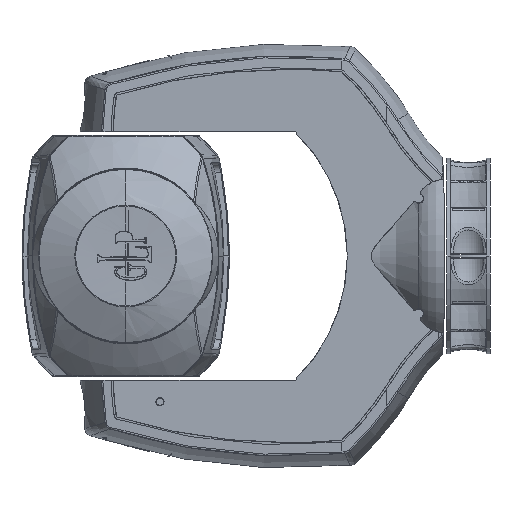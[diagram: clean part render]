
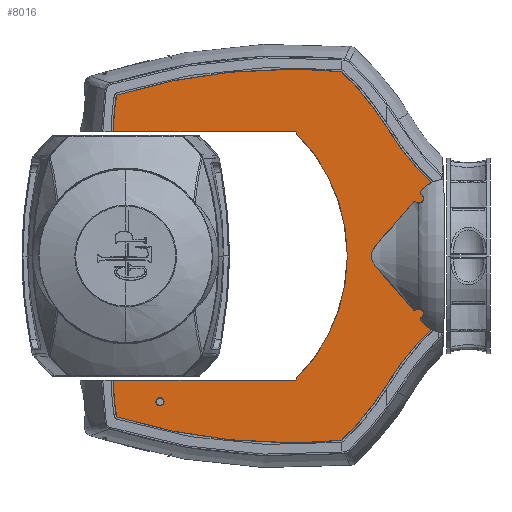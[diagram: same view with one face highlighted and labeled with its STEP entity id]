
A CAD part, left-side view. The second image highlights one B-rep face of the part: STEP entity #8016.
In plain terms, the highlighted planar face has unit normal (-1, 0, 0).
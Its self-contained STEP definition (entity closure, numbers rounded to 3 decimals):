
#7822=DIRECTION('',(0.,-1.,0.));
#7823=VECTOR('',#7822,200.9);
#7824=CARTESIAN_POINT('',(-67.,373.028,137.5));
#7825=LINE('',#7824,#7823);
#7826=CARTESIAN_POINT('',(-67.,180.522,143.5));
#7827=DIRECTION('',(1.,0.,0.));
#7828=DIRECTION('',(0.,1.,-0.031));
#7829=AXIS2_PLACEMENT_3D('',#7826,#7827,#7828);
#7831=CARTESIAN_POINT('',(-67.,180.522,-434.1));
#7832=DIRECTION('',(1.,0.,0.));
#7833=DIRECTION('',(0.,0.296,0.955));
#7834=AXIS2_PLACEMENT_3D('',#7831,#7832,#7833);
#7836=CARTESIAN_POINT('',(-67.,180.522,-434.1));
#7837=DIRECTION('',(1.,0.,0.));
#7838=DIRECTION('',(0.,0.,1.));
#7839=AXIS2_PLACEMENT_3D('',#7836,#7837,#7838);
#7841=CARTESIAN_POINT('',(-67.,325.,-12.5));
#7842=DIRECTION('',(1.,0.,0.));
#7843=DIRECTION('',(0.,-0.687,0.727));
#7844=AXIS2_PLACEMENT_3D('',#7841,#7842,#7843);
#7846=CARTESIAN_POINT('',(-67.,-209.512,315.067));
#7847=DIRECTION('',(-1.,0.,0.));
#7848=DIRECTION('',(0.,0.853,-0.523));
#7849=AXIS2_PLACEMENT_3D('',#7846,#7847,#7848);
#7851=DIRECTION('',(0.,0.,-1.));
#7852=VECTOR('',#7851,146.1);
#7853=CARTESIAN_POINT('',(-67.,13.5,73.05));
#7854=LINE('',#7853,#7852);
#7855=CARTESIAN_POINT('',(-67.,-209.512,-315.067));
#7856=DIRECTION('',(-1.,0.,0.));
#7857=DIRECTION('',(0.,0.678,0.735));
#7858=AXIS2_PLACEMENT_3D('',#7855,#7856,#7857);
#7860=CARTESIAN_POINT('',(-67.,325.,12.5));
#7861=DIRECTION('',(1.,0.,0.));
#7862=DIRECTION('',(0.,-0.853,-0.523));
#7863=AXIS2_PLACEMENT_3D('',#7860,#7861,#7862);
#7865=CARTESIAN_POINT('',(-67.,180.522,434.1));
#7866=DIRECTION('',(1.,0.,0.));
#7867=DIRECTION('',(0.,-0.094,-0.996));
#7868=AXIS2_PLACEMENT_3D('',#7865,#7866,#7867);
#7870=CARTESIAN_POINT('',(-67.,180.522,434.1));
#7871=DIRECTION('',(1.,0.,0.));
#7872=DIRECTION('',(0.,0.,-1.));
#7873=AXIS2_PLACEMENT_3D('',#7870,#7871,#7872);
#7875=CARTESIAN_POINT('',(-67.,180.522,-143.5));
#7876=DIRECTION('',(1.,0.,0.));
#7877=DIRECTION('',(0.,0.984,-0.18));
#7878=AXIS2_PLACEMENT_3D('',#7875,#7876,#7877);
#7880=CARTESIAN_POINT('',(-67.,306.85,0.));
#7881=DIRECTION('',(-1.,0.,0.));
#7882=DIRECTION('',(0.,-0.7,-0.714));
#7883=AXIS2_PLACEMENT_3D('',#7880,#7881,#7882);
#7885=CARTESIAN_POINT('',(-67.,306.85,0.));
#7886=DIRECTION('',(-1.,0.,0.));
#7887=DIRECTION('',(0.,-1.,0.));
#7888=AXIS2_PLACEMENT_3D('',#7885,#7886,#7887);
#7894=DIRECTION('',(0.,1.,0.));
#7895=VECTOR('',#7894,200.9);
#7896=CARTESIAN_POINT('',(-67.,172.128,-137.5));
#7897=LINE('',#7896,#7895);
#7934=CARTESIAN_POINT('',(-67.,373.028,137.5));
#7935=VERTEX_POINT('',#7934);
#7936=CARTESIAN_POINT('',(-67.,172.128,137.5));
#7937=VERTEX_POINT('',#7936);
#7938=CARTESIAN_POINT('',(-67.,369.978,178.157));
#7939=VERTEX_POINT('',#7938);
#7940=CARTESIAN_POINT('',(-67.,180.522,206.8));
#7941=VERTEX_POINT('',#7940);
#7942=CARTESIAN_POINT('',(-67.,120.501,203.983));
#7943=VERTEX_POINT('',#7942);
#7944=CARTESIAN_POINT('',(-67.,71.088,143.106));
#7945=VERTEX_POINT('',#7944);
#7946=CARTESIAN_POINT('',(-67.,13.5,73.05));
#7947=VERTEX_POINT('',#7946);
#7948=CARTESIAN_POINT('',(-67.,13.5,-73.05));
#7949=VERTEX_POINT('',#7948);
#7950=CARTESIAN_POINT('',(-67.,71.088,-143.106));
#7951=VERTEX_POINT('',#7950);
#7952=CARTESIAN_POINT('',(-67.,120.501,-203.983));
#7953=VERTEX_POINT('',#7952);
#7954=CARTESIAN_POINT('',(-67.,180.522,-206.8));
#7955=VERTEX_POINT('',#7954);
#7956=CARTESIAN_POINT('',(-67.,369.978,-178.157));
#7957=VERTEX_POINT('',#7956);
#7958=CARTESIAN_POINT('',(-67.,373.028,-137.5));
#7959=VERTEX_POINT('',#7958);
#7960=CARTESIAN_POINT('',(-67.,172.128,-137.5));
#7961=VERTEX_POINT('',#7960);
#7962=CARTESIAN_POINT('',(-67.,114.35,0.));
#7963=VERTEX_POINT('',#7962);
#7980=CARTESIAN_POINT('',(-67.,325.,0.));
#7981=DIRECTION('',(1.,0.,0.));
#7982=DIRECTION('',(0.,0.,1.));
#7983=AXIS2_PLACEMENT_3D('',#7980,#7981,#7982);
#7984=PLANE('',#7983);
#7985=ORIENTED_EDGE('',*,*,#7973,.F.);
#7987=ORIENTED_EDGE('',*,*,#7986,.T.);
#7989=ORIENTED_EDGE('',*,*,#7988,.T.);
#7991=ORIENTED_EDGE('',*,*,#7990,.T.);
#7993=ORIENTED_EDGE('',*,*,#7992,.T.);
#7995=ORIENTED_EDGE('',*,*,#7994,.T.);
#7997=ORIENTED_EDGE('',*,*,#7996,.T.);
#7999=ORIENTED_EDGE('',*,*,#7998,.T.);
#8001=ORIENTED_EDGE('',*,*,#8000,.T.);
#8003=ORIENTED_EDGE('',*,*,#8002,.T.);
#8005=ORIENTED_EDGE('',*,*,#8004,.T.);
#8007=ORIENTED_EDGE('',*,*,#8006,.T.);
#8009=ORIENTED_EDGE('',*,*,#8008,.F.);
#8011=ORIENTED_EDGE('',*,*,#8010,.T.);
#8013=ORIENTED_EDGE('',*,*,#8012,.T.);
#8014=EDGE_LOOP('',(#7985,#7987,#7989,#7991,#7993,#7995,#7997,#7999,#8001,#8003,
#8005,#8007,#8009,#8011,#8013));
#8015=FACE_OUTER_BOUND('',#8014,.F.);
#7830=CIRCLE('',#7829,192.6);
#7835=CIRCLE('',#7834,640.9);
#7840=CIRCLE('',#7839,640.9);
#7845=CIRCLE('',#7844,297.8);
#7850=CIRCLE('',#7849,329.1);
#7859=CIRCLE('',#7858,329.1);
#7864=CIRCLE('',#7863,297.8);
#7869=CIRCLE('',#7868,640.9);
#7874=CIRCLE('',#7873,640.9);
#7879=CIRCLE('',#7878,192.6);
#7884=CIRCLE('',#7883,192.5);
#7889=CIRCLE('',#7888,192.5);
#7973=EDGE_CURVE('',#7935,#7937,#7825,.T.);
#7986=EDGE_CURVE('',#7935,#7939,#7830,.T.);
#7988=EDGE_CURVE('',#7939,#7941,#7835,.T.);
#7990=EDGE_CURVE('',#7941,#7943,#7840,.T.);
#7992=EDGE_CURVE('',#7943,#7945,#7845,.T.);
#7994=EDGE_CURVE('',#7945,#7947,#7850,.T.);
#7996=EDGE_CURVE('',#7947,#7949,#7854,.T.);
#7998=EDGE_CURVE('',#7949,#7951,#7859,.T.);
#8000=EDGE_CURVE('',#7951,#7953,#7864,.T.);
#8002=EDGE_CURVE('',#7953,#7955,#7869,.T.);
#8004=EDGE_CURVE('',#7955,#7957,#7874,.T.);
#8006=EDGE_CURVE('',#7957,#7959,#7879,.T.);
#8008=EDGE_CURVE('',#7961,#7959,#7897,.T.);
#8010=EDGE_CURVE('',#7961,#7963,#7884,.T.);
#8012=EDGE_CURVE('',#7963,#7937,#7889,.T.);
#8016=ADVANCED_FACE('',(#8015),#7984,.F.);
